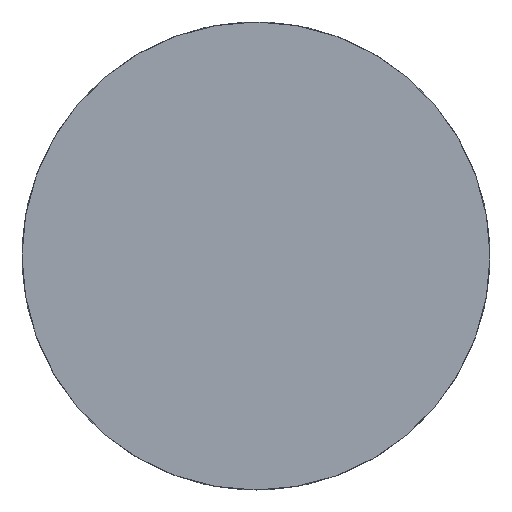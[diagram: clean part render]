
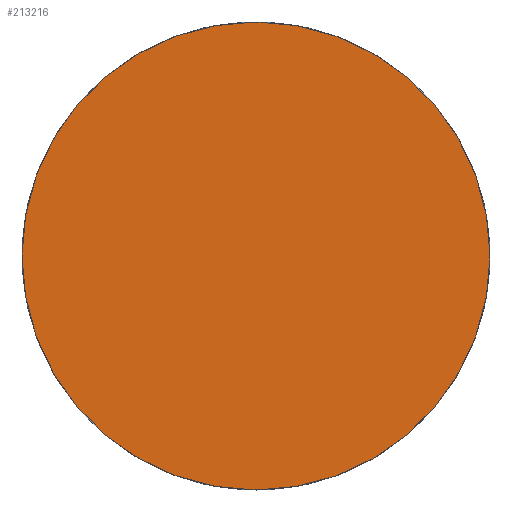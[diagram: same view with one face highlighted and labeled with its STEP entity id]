
A CAD part, top view. The second image highlights one B-rep face of the part: STEP entity #213216.
In plain terms, the highlighted planar face has unit normal (0, 0, 1).
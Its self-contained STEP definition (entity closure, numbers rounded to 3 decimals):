
#190141=CARTESIAN_POINT('',(0.006,-37.,36.9));
#190142=VERTEX_POINT('',#190141);
#190156=CARTESIAN_POINT('',(0.001,0.,36.9));
#190161=DIRECTION('',(-0.,0.,1.));
#190166=DIRECTION('',(0.,1.,0.));
#190171=AXIS2_PLACEMENT_3D('',#190156,#190161,#190166);
#190176=CIRCLE('',#190171,37.);
#190181=CARTESIAN_POINT('',(-0.009,37.,36.9));
#190182=VERTEX_POINT('',#190181);
#190186=EDGE_CURVE('',#190182,#190142,#190176,.T.);
#195311=CARTESIAN_POINT('',(0.,0.,36.9));
#195316=DIRECTION('',(0.,0.,1.));
#195321=DIRECTION('',(0.,-1.,0.));
#195326=AXIS2_PLACEMENT_3D('',#195311,#195316,#195321);
#195331=CIRCLE('',#195326,37.);
#195336=EDGE_CURVE('',#190142,#190182,#195331,.T.);
#213171=DIRECTION('',(0.,0.,1.));
#213176=CARTESIAN_POINT('',(-38.097,-37.001,36.9));
#213181=DIRECTION('',(1.,0.,0.));
#213186=AXIS2_PLACEMENT_3D('',#213176,#213171,#213181);
#213191=PLANE('',#213186);
#213196=ORIENTED_EDGE('',*,*,#190186,.T.);
#213201=ORIENTED_EDGE('',*,*,#195336,.T.);
#213206=EDGE_LOOP('',(#213196,#213201));
#213211=FACE_OUTER_BOUND('',#213206,.T.);
#213216=ADVANCED_FACE('NONE',(#213211),#213191,.T.);
